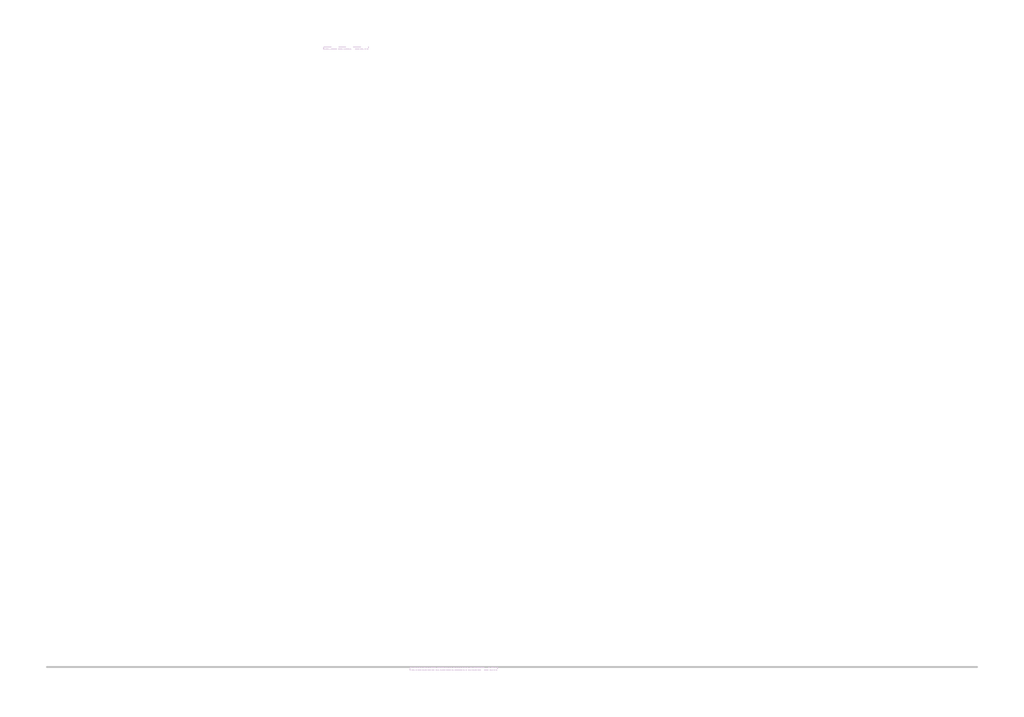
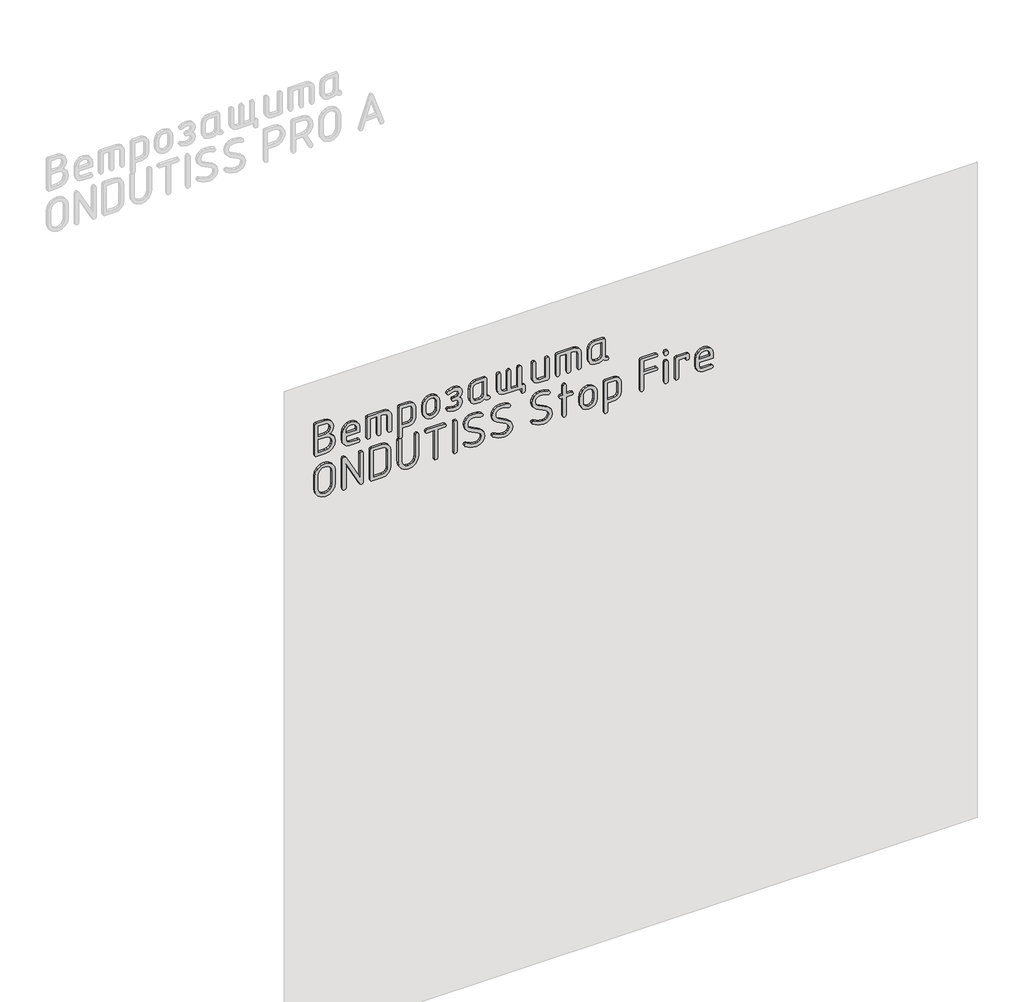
# One storey, part 20 of 42: 1 proxy.
"""IFC4 building model written with IfcOpenShell, lengths in millimetres."""

import ifcopenshell
import ifcopenshell.guid

model = None  # the IFC model being written
_history = None  # IfcOwnerHistory: only IFC2X3 demands one
_inside = {}  # id of a spatial element -> (the spatial element, [elements in it])
_under = {}  # id of a project, library or spatial element -> (it, [spatial elements below it])
_declared = {}  # id of a project -> (the project, [libraries it declares])
_typed = {}  # id of a type object -> (the type object, [elements of that type])
_made_of = {}  # id of a material, layer set ... -> (it, [elements and type objects made of it])


def new_model(schema):
    """Start an empty IFC model of exactly this schema.

    Asked for "IFC4X3", IfcOpenShell would pick the latest addendum, in which some entities
    have other attributes; the version numbers below select the first issue.
    IFC2X3 requires an IfcOwnerHistory on every rooted entity: one is made here for all.
    """
    global model, _history
    if schema == "IFC4X3":
        model = ifcopenshell.file(schema_version=(4, 3, 0, 0))
    else:
        model = ifcopenshell.file(schema=schema)
    _inside.clear()
    _under.clear()
    _declared.clear()
    _typed.clear()
    _made_of.clear()
    _history = None
    if model.schema == "IFC2X3":
        org = make("IfcOrganization", Name="unknown")
        user = make(
            "IfcPersonAndOrganization",
            ThePerson=make("IfcPerson", FamilyName="unknown"),
            TheOrganization=org,
        )
        app = make(
            "IfcApplication",
            ApplicationDeveloper=org,
            Version="unknown",
            ApplicationFullName="unknown",
            ApplicationIdentifier="unknown",
        )
        _history = make(
            "IfcOwnerHistory",
            OwningUser=user,
            OwningApplication=app,
            ChangeAction="ADDED",
            CreationDate=0,
        )
    return model


def make(cls, **values):
    """One entity of the class cls with the attributes given. An attribute that is None is left unset."""
    return model.create_entity(
        cls, **{name: value for name, value in values.items() if value is not None}
    )


def rooted(cls, **values):
    """An entity with a GlobalId (a new one), such as an element, a storey or a relation."""
    return make(cls, GlobalId=ifcopenshell.guid.new(), OwnerHistory=_history, **values)


def si_unit(unit_type, name, prefix=None):
    """IfcSIUnit, for example si_unit("LENGTHUNIT", "METRE", prefix="MILLI")."""
    return make("IfcSIUnit", UnitType=unit_type, Prefix=prefix, Name=name)


def assignment(units):
    """IfcUnitAssignment: the units of a project."""
    return None if units is None else make("IfcUnitAssignment", Units=units)


def point(xyz):
    """IfcCartesianPoint."""
    return None if xyz is None else make("IfcCartesianPoint", Coordinates=xyz)


def direction(xyz):
    """IfcDirection."""
    return None if xyz is None else make("IfcDirection", DirectionRatios=xyz)


def frame(location, z_axis=None, x_axis=None):
    """IfcAxis2Placement3D, a coordinate frame: its origin and axes. An axis left out is left unset."""
    return make(
        "IfcAxis2Placement3D",
        Location=point(location),
        Axis=direction(z_axis),
        RefDirection=direction(x_axis),
    )


def origin():
    """The frame at (0, 0, 0) with its axes left unset."""
    return frame((0.0, 0.0, 0.0))


def place(relative_to, where):
    """IfcLocalPlacement: puts the frame where relative to a parent placement (None: the world)."""
    return make(
        "IfcLocalPlacement", PlacementRelTo=relative_to, RelativePlacement=where
    )


def context(
    kind, dimensions, precision=None, world=None, true_north=None, identifier=None
):
    """IfcGeometricRepresentationContext, for example the 3D "Model" context."""
    return make(
        "IfcGeometricRepresentationContext",
        ContextIdentifier=identifier,
        ContextType=kind,
        CoordinateSpaceDimension=dimensions,
        Precision=precision,
        WorldCoordinateSystem=world,
        TrueNorth=true_north,
    )


def project(units=None, contexts=None):
    """IfcProject with its units and contexts."""
    return rooted(
        "IfcProject",
        Name="project",
        RepresentationContexts=contexts,
        UnitsInContext=assignment(units),
    )


def spatial(cls, under=None, at=None, **own):
    """A site, building, storey or space (cls), placed at a placement, below another one or the project."""
    s = rooted(cls, ObjectPlacement=at, **own)
    if under is not None:
        _under.setdefault(under.id(), (under, []))[1].append(s)
    return s


def polyline(points):
    """IfcPolyline through the points."""
    return make("IfcPolyline", Points=[point(p) for p in points])


def outline(outer, holes=None, kind="AREA"):
    """IfcArbitraryClosedProfileDef: a profile drawn as a closed curve; with holes, ...WithVoids."""
    if holes is None:
        return make("IfcArbitraryClosedProfileDef", ProfileType=kind, OuterCurve=outer)
    return make(
        "IfcArbitraryProfileDefWithVoids",
        ProfileType=kind,
        OuterCurve=outer,
        InnerCurves=holes,
    )


def extrude(swept, where, along, depth):
    """IfcExtrudedAreaSolid: the profile swept, set in the frame where, extruded along a direction by depth."""
    return make(
        "IfcExtrudedAreaSolid",
        SweptArea=swept,
        Position=where,
        ExtrudedDirection=direction(along),
        Depth=depth,
    )


def shape(context_of_items, identifier, shape_type, items):
    """IfcShapeRepresentation: the items that make up one representation, for example the "Body"."""
    return make(
        "IfcShapeRepresentation",
        ContextOfItems=context_of_items,
        RepresentationIdentifier=identifier,
        RepresentationType=shape_type,
        Items=items,
    )


def made_of(thing, what):
    """Note that an element or type object is made of a material, layer set ...; save() writes the relation."""
    if what is not None:
        _made_of.setdefault(what.id(), (what, []))[1].append(thing)
    return thing


def element(
    cls,
    number,
    at=None,
    inside=None,
    cuts=None,
    type_object=None,
    material=None,
    context=None,
    identifier="Body",
    shape_type=None,
    held_by="IfcProductDefinitionShape",
    body=None,
    shapes=None,
    **own,
):
    """One element of the class cls, such as IfcWall. Its Tag is "e" and its number.

    at: its placement. inside: the storey or other place that contains it. cuts: it is an
    opening in that element (IfcRelVoidsElement). A single representation is given by context,
    identifier, shape_type and body (its items); several are given by shapes. held_by: the class
    of the entity that holds the representations. save() writes the other relations.
    """
    e = rooted(cls, Tag="e%d" % number, ObjectPlacement=at, **own)
    if body is not None:
        shapes = [shape(context, identifier, shape_type, body)]
    if shapes is not None:
        e.Representation = make(held_by, Representations=shapes)
    if inside is not None:
        _inside.setdefault(inside.id(), (inside, []))[1].append(e)
    if cuts is not None:
        rooted(
            "IfcRelVoidsElement", RelatingBuildingElement=cuts, RelatedOpeningElement=e
        )
    if type_object is not None:
        _typed.setdefault(type_object.id(), (type_object, []))[1].append(e)
    return made_of(e, material)


def aggregate(whole, parts):
    """IfcRelAggregates: a whole, such as a stair, and the parts it consists of."""
    return rooted("IfcRelAggregates", RelatingObject=whole, RelatedObjects=parts)


def save(model, path):
    """Write the relations noted so far, then the file.

    IfcRelAggregates (storeys below a building ...), IfcRelContainedInSpatialStructure (elements
    in a storey), IfcRelDefinesByType, IfcRelAssociatesMaterial and IfcRelDeclares: one each for
    every whole, place, type object, material and project.
    """
    for whole, parts in _under.values():
        aggregate(whole, parts)
    for where, things in _inside.values():
        rooted(
            "IfcRelContainedInSpatialStructure",
            RelatedElements=things,
            RelatingStructure=where,
        )
    for kind, things in _typed.values():
        rooted("IfcRelDefinesByType", RelatedObjects=things, RelatingType=kind)
    for what, things in _made_of.values():
        rooted("IfcRelAssociatesMaterial", RelatedObjects=things, RelatingMaterial=what)
    for by, libraries in _declared.values():
        rooted("IfcRelDeclares", RelatingContext=by, RelatedDefinitions=libraries)
    model.write(path)


model = new_model("IFC4")

# Units and contexts
model_context = context("Model", 3, world=origin())
ifc_project = project(units=[si_unit("LENGTHUNIT", "METRE", prefix="MILLI")], contexts=[model_context])

# Site, building, storey
site = spatial("IfcSite", under=ifc_project)
building = spatial("IfcBuilding", under=site)
storey = spatial("IfcBuildingStorey", under=building, Name="Этаж 01", Elevation=0.0)

# Proxy
placement = place(None, origin())
element("IfcBuildingElementProxy", 1, Name="150 мм GOST Common", ObjectType="150 мм GOST Common", at=placement, inside=storey, context=model_context, shape_type="SweptSolid", body=[
    extrude(outline(polyline([(2745.2967896, -23242.9801231), (2758.5207699, -23232.3430091), (2775.180588, -23228.7973044), (2790.0625597, -23231.4890436), (2802.4275806, -23239.5642611), (2810.7574896, -23251.5547357), (2813.534126, -23265.9922459), (2813.534126, -23303.1871874), (2811.6464128, -23308.7604359), (2805.9832732, -23310.6181854), (2670.2277293, -23310.6181854), (2664.5645897, -23308.750448), (2662.6768765, -23303.1472358), (2662.6768765, -23265.8723911), (2665.9479139, -23248.6932022), (2675.7610262, -23234.2307223), (2690.1885485, -23224.4026281), (2707.302816, -23221.1265968), (2729.4859431, -23226.5899784), (2745.2967896, -23242.9801231)]), holes=[polyline([(2798.1927108, -23295.2767702), (2798.1927108, -23266.0721491), (2796.5097495, -23257.6373671), (2791.4608658, -23250.5509517), (2784.0248739, -23245.7417776), (2775.180588, -23244.1387196), (2766.3363021, -23245.7417776), (2758.9003101, -23250.5509517), (2753.8514264, -23257.6373671), (2752.1684652, -23266.0721491), (2752.1684652, -23295.2767702), (2798.1927108, -23295.2767702)]), polyline([(2736.82705, -23295.2767702), (2736.82705, -23265.8723911), (2734.6946332, -23254.4811906), (2728.2973829, -23244.997679), (2718.8138714, -23238.6004287), (2707.4226708, -23236.468012), (2696.0314703, -23238.6004287), (2686.5479588, -23244.997679), (2680.1507085, -23254.4811906), (2678.0182917, -23265.8723911), (2678.0182917, -23295.2767702), (2736.82705, -23295.2767702)])]), frame((0.0, -27839.3929597, 0.0), z_axis=(0.0, 1.0, 0.0), x_axis=(0.0, 0.0, 1.0)), (0.0, 0.0, 1.0), 10.0),
    extrude(outline(polyline([(2708.7011221, -23175.1023512), (2708.7011221, -23115.0950449), (2730.7544065, -23115.0950449), (2745.0371042, -23117.8067599), (2756.8827542, -23125.9419048), (2764.8530988, -23138.0322584), (2767.5098804, -23152.6095992), (2764.7731956, -23167.0770731), (2756.5631414, -23179.3172452), (2744.4677939, -23187.6621361), (2730.0752292, -23190.4437664), (2692.6405781, -23190.4437664), (2681.004674, -23188.2264525), (2671.3463742, -23181.5745107), (2664.8442509, -23171.7763803), (2662.6768765, -23160.1205004), (2662.6768765, -23122.6059461), (2664.5945534, -23116.9727702), (2670.3475841, -23115.0950449), (2676.1006148, -23116.9727702), (2678.0182917, -23122.6059461), (2678.0182917, -23160.1205004), (2682.5527986, -23170.6677234), (2693.3597069, -23175.1023512), (2708.7011221, -23175.1023512)]), holes=[polyline([(2754.0461905, -23152.6095992), (2752.3981869, -23143.9800532), (2747.4541761, -23136.7088616), (2740.1829845, -23131.7648508), (2731.5534385, -23130.1168472), (2724.0425373, -23130.1168472), (2724.0425373, -23175.1023512), (2731.5534385, -23175.1023512), (2740.1829845, -23173.4543476), (2747.4541761, -23168.5103368), (2752.3981869, -23161.2391453), (2754.0461905, -23152.6095992)])]), frame((0.0, -27839.3929597, 0.0), z_axis=(0.0, 1.0, 0.0), x_axis=(0.0, 0.0, 1.0)), (0.0, 0.0, 1.0), 10.0),
    extrude(outline(polyline([(2767.5098804, -23077.9400549), (2765.642143, -23083.6930856), (2760.0389308, -23085.6107625), (2670.1478261, -23085.6107625), (2664.5446139, -23083.6930856), (2662.6768765, -23077.9400549), (2664.5446139, -23072.1870242), (2670.1478261, -23070.2693473), (2752.1684652, -23070.2693473), (2752.1684652, -23039.5865169), (2670.1478261, -23039.5865169), (2664.5446139, -23037.66884), (2662.6768765, -23031.9158093), (2664.5446139, -23026.1627786), (2670.1478261, -23024.2451017), (2752.1684652, -23024.2451017), (2752.1684652, -23008.9036865), (2747.8736679, -22997.9769234), (2737.2665176, -22993.5622713), (2670.1478261, -22993.5622713), (2664.5446139, -22991.6445944), (2662.6768765, -22985.8915637), (2664.5446139, -22980.138533), (2670.1478261, -22978.2208561), (2737.5461788, -22978.2208561), (2749.1071737, -22980.4581459), (2758.7804553, -22987.170015), (2765.3275241, -22997.0780123), (2767.5098804, -23008.9036865), (2767.5098804, -23077.9400549)])), frame((0.0, -27839.3929597, 0.0), z_axis=(0.0, 1.0, 0.0), x_axis=(0.0, 0.0, 1.0)), (0.0, 0.0, 1.0), 10.0),
    extrude(outline(polyline([(2759.9590276, -22947.5380258), (2624.2034837, -22947.5380258), (2618.5403441, -22945.6203489), (2616.6526309, -22939.8673182), (2618.5703078, -22934.1142875), (2624.3233385, -22932.1966106), (2662.6768765, -22932.1966106), (2662.6768765, -22902.7922314), (2664.8592328, -22891.4010309), (2671.4063016, -22881.9175193), (2681.0795832, -22875.5202691), (2692.6405781, -22873.3878523), (2737.5461788, -22873.3878523), (2749.1820829, -22875.5352509), (2758.8403827, -22881.9774467), (2765.342506, -22891.5358675), (2767.5098804, -22903.031941), (2767.5098804, -22940.1070278), (2765.6221672, -22945.6802763), (2759.9590276, -22947.5380258)]), holes=[polyline([(2752.1684652, -22932.1966106), (2752.1684652, -22903.2316991), (2747.8936437, -22892.9042099), (2737.3464208, -22888.7292675), (2692.8403361, -22888.7292675), (2682.3530405, -22892.9641373), (2678.0182917, -22903.2316991), (2678.0182917, -22932.1966106), (2752.1684652, -22932.1966106)])]), frame((0.0, -27839.3929597, 0.0), z_axis=(0.0, 1.0, 0.0), x_axis=(0.0, 0.0, 1.0)), (0.0, 0.0, 1.0), 10.0),
    extrude(outline(polyline([(2700.1115277, -22842.7050219), (2685.718963, -22839.9933069), (2673.6236155, -22831.8581619), (2665.4135613, -22819.8776753), (2662.6768765, -22805.6299352), (2665.4135613, -22791.3821951), (2673.6236155, -22779.4017084), (2685.718963, -22771.2665634), (2700.1115277, -22768.5548485), (2730.0752292, -22768.5548485), (2744.6176124, -22771.2365997), (2756.6829962, -22779.2818536), (2764.8031593, -22791.2323766), (2767.5098804, -22805.6299352), (2764.7731956, -22819.8776753), (2756.5631414, -22831.8581619), (2744.4677939, -22839.9933069), (2730.0752292, -22842.7050219), (2700.1115277, -22842.7050219)]), holes=[polyline([(2700.5509953, -22783.8962636), (2691.8914855, -22785.4893338), (2684.6103061, -22790.2685442), (2679.6662953, -22797.2950322), (2678.0182917, -22805.6299352), (2679.6563074, -22814.0397474), (2684.5703545, -22821.0512536), (2691.841546, -22825.7855184), (2700.5509953, -22827.3636067), (2730.5546484, -22827.3636067), (2739.1841945, -22825.7705366), (2746.4553861, -22820.9913262), (2751.3993968, -22813.9648382), (2753.0474004, -22805.6299352), (2751.3993968, -22797.2950322), (2746.4553861, -22790.2685442), (2739.1841945, -22785.4893338), (2730.5546484, -22783.8962636), (2700.5509953, -22783.8962636)])]), frame((0.0, -27839.3929597, 0.0), z_axis=(0.0, 1.0, 0.0), x_axis=(0.0, 0.0, 1.0)), (0.0, 0.0, 1.0), 10.0),
    extrude(outline(polyline([(2693.3996585, -22686.7339674), (2682.5128469, -22691.1086678), (2678.0182917, -22701.7557698), (2678.0182917, -22709.266671), (2681.8336697, -22724.3084492), (2685.6490477, -22733.4373902), (2682.9323388, -22737.5524052), (2677.6587273, -22739.2703241), (2671.7059386, -22736.2240145), (2666.6320851, -22727.0850855), (2662.6768765, -22709.266671), (2662.6768765, -22701.7557698), (2664.8991844, -22690.0699262), (2671.566108, -22680.2618079), (2681.4591234, -22673.6098661), (2693.3597069, -22671.3925522), (2707.1829612, -22674.0393458), (2716.3718297, -22681.9797267), (2725.0113637, -22674.0393458), (2738.3052592, -22671.3925522), (2749.6215505, -22673.6098661), (2759.0401407, -22680.2618079), (2765.3924455, -22690.0699262), (2767.5098804, -22701.7557698), (2767.5098804, -22709.266671), (2763.434817, -22726.9652307), (2758.2710724, -22736.1940508), (2752.5280296, -22739.2703241), (2747.2743939, -22737.5524052), (2744.5377092, -22733.557245), (2748.3530872, -22724.6480378), (2752.1684652, -22709.266671), (2752.1684652, -22701.7557698), (2748.1133776, -22691.0687162), (2738.1055012, -22686.7339674), (2728.0976249, -22690.7690792), (2724.0425373, -22702.434947), (2724.0425373, -22704.8320431), (2724.0425373, -22707.1092845), (2721.7852718, -22714.5203066), (2716.3318781, -22716.7376206), (2710.8984602, -22714.580234), (2708.7011221, -22709.266671), (2708.7011221, -22699.5983833), (2704.7459135, -22690.7291276), (2693.3996585, -22686.7339674)])), frame((0.0, -27839.3929597, 0.0), z_axis=(0.0, 1.0, 0.0), x_axis=(0.0, 0.0, 1.0)), (0.0, 0.0, 1.0), 10.0),
    extrude(outline(polyline([(2670.1478261, -22551.5776976), (2675.781002, -22553.4504289), (2677.6587273, -22559.068623), (2679.5264647, -22564.686817), (2685.1296769, -22566.5595483), (2760.0389308, -22566.5595483), (2765.642143, -22568.4172978), (2767.5098804, -22573.9905463), (2767.5098804, -22611.0656331), (2765.342506, -22622.5617066), (2758.8403827, -22632.1201274), (2749.1820829, -22638.5623232), (2737.5461788, -22640.7097218), (2692.6405781, -22640.7097218), (2681.004674, -22638.5623232), (2671.3463742, -22632.1201274), (2664.8442509, -22622.5617066), (2662.6768765, -22611.0656331), (2662.6768765, -22596.2036371), (2664.6644687, -22585.2269344), (2670.6272453, -22576.1079812), (2664.6644687, -22568.5271648), (2662.6768765, -22559.0486472), (2664.5446139, -22553.445435), (2670.1478261, -22551.5776976)]), holes=[polyline([(2752.1684652, -22581.9009635), (2692.8403361, -22581.9009635), (2682.3530405, -22586.1358334), (2678.0182917, -22596.4033951), (2678.0182917, -22610.8658751), (2682.3929921, -22621.0934852), (2692.8403361, -22625.3683066), (2737.3464208, -22625.3683066), (2747.8337163, -22621.1334368), (2752.1684652, -22610.8658751), (2752.1684652, -22581.9009635)])]), frame((0.0, -27839.3929597, 0.0), z_axis=(0.0, 1.0, 0.0), x_axis=(0.0, 0.0, 1.0)), (0.0, 0.0, 1.0), 10.0),
    extrude(outline(polyline([(2662.6768765, -22415.7022989), (2647.3354613, -22415.7022989), (2641.5824306, -22413.784622), (2639.6647537, -22408.0315913), (2641.5824306, -22402.2785606), (2647.3354613, -22400.3608837), (2670.3475841, -22400.3608837), (2676.1006148, -22402.2785606), (2678.0182917, -22408.0315913), (2678.0182917, -22415.7022989), (2760.0389308, -22415.7022989), (2765.642143, -22417.6199758), (2767.5098804, -22423.3730065), (2765.642143, -22429.1260372), (2760.0389308, -22431.0437141), (2678.0182917, -22431.0437141), (2678.0182917, -22461.7265445), (2760.0389308, -22461.7265445), (2765.642143, -22463.6442214), (2767.5098804, -22469.3972521), (2765.642143, -22475.1502828), (2760.0389308, -22477.0679597), (2678.0182917, -22477.0679597), (2678.0182917, -22491.1309236), (2682.4329437, -22501.0389209), (2692.9202393, -22505.1938876), (2760.0389308, -22505.1938876), (2765.642143, -22507.1115645), (2767.5098804, -22512.8645952), (2765.642143, -22518.6176259), (2760.0389308, -22520.5353028), (2692.6405781, -22520.5353028), (2681.0795832, -22518.3679283), (2671.4063016, -22511.8658051), (2664.8592328, -22502.2075053), (2662.6768765, -22490.5716012), (2662.6768765, -22415.7022989)])), frame((0.0, -27839.3929597, 0.0), z_axis=(0.0, 1.0, 0.0), x_axis=(0.0, 0.0, 1.0)), (0.0, 0.0, 1.0), 10.0),
    extrude(outline(polyline([(2760.0389308, -22295.5278799), (2765.642143, -22297.4455568), (2767.5098804, -22303.1985875), (2765.642143, -22308.9516182), (2760.0389308, -22310.8692951), (2678.0182917, -22310.8692951), (2678.0182917, -22339.8342066), (2682.4329437, -22350.0618167), (2692.9202393, -22354.3366381), (2760.0389308, -22354.3366381), (2765.642143, -22356.254315), (2767.5098804, -22362.0073457), (2765.642143, -22367.7603764), (2760.0389308, -22369.6780533), (2692.6405781, -22369.6780533), (2681.004674, -22367.5306547), (2671.3463742, -22361.0884589), (2664.8442509, -22351.5300381), (2662.6768765, -22340.0339646), (2662.6768765, -22302.9588778), (2664.5446139, -22297.3856294), (2670.1478261, -22295.5278799), (2760.0389308, -22295.5278799)])), frame((0.0, -27839.3929597, 0.0), z_axis=(0.0, 1.0, 0.0), x_axis=(0.0, 0.0, 1.0)), (0.0, 0.0, 1.0), 10.0),
    extrude(outline(polyline([(2767.5098804, -22257.1743419), (2765.642143, -22262.9273726), (2760.0389308, -22264.8450495), (2670.1478261, -22264.8450495), (2664.5446139, -22262.9273726), (2662.6768765, -22257.1743419), (2664.5446139, -22251.4213112), (2670.1478261, -22249.5036343), (2752.1684652, -22249.5036343), (2752.1684652, -22218.8208039), (2670.1478261, -22218.8208039), (2664.5446139, -22216.903127), (2662.6768765, -22211.1500963), (2664.5446139, -22205.3970656), (2670.1478261, -22203.4793887), (2752.1684652, -22203.4793887), (2752.1684652, -22188.1379735), (2747.8736679, -22177.2112103), (2737.2665176, -22172.7965583), (2670.1478261, -22172.7965583), (2664.5446139, -22170.8788814), (2662.6768765, -22165.1258507), (2664.5446139, -22159.37282), (2670.1478261, -22157.4551431), (2737.5461788, -22157.4551431), (2749.1071737, -22159.6924328), (2758.7804553, -22166.4043019), (2765.3275241, -22176.3122993), (2767.5098804, -22188.1379735), (2767.5098804, -22257.1743419)])), frame((0.0, -27839.3929597, 0.0), z_axis=(0.0, 1.0, 0.0), x_axis=(0.0, 0.0, 1.0)), (0.0, 0.0, 1.0), 10.0),
    extrude(outline(polyline([(2670.1478261, -22037.6402885), (2675.781002, -22039.5130198), (2677.6587273, -22045.1312138), (2679.5264647, -22050.7494079), (2685.1296769, -22052.6221392), (2760.0389308, -22052.6221392), (2765.642143, -22054.4798887), (2767.5098804, -22060.0531372), (2767.5098804, -22097.1282239), (2765.342506, -22108.6242974), (2758.8403827, -22118.1827182), (2749.1820829, -22124.6249141), (2737.5461788, -22126.7723127), (2692.6405781, -22126.7723127), (2681.004674, -22124.6249141), (2671.3463742, -22118.1827182), (2664.8442509, -22108.6242974), (2662.6768765, -22097.1282239), (2662.6768765, -22082.266228), (2664.6644687, -22071.2895253), (2670.6272453, -22062.1705721), (2664.6644687, -22054.5897556), (2662.6768765, -22045.111238), (2664.5446139, -22039.5080259), (2670.1478261, -22037.6402885)]), holes=[polyline([(2752.1684652, -22067.9635544), (2692.8403361, -22067.9635544), (2682.3530405, -22072.1984243), (2678.0182917, -22082.465986), (2678.0182917, -22096.9284659), (2682.3929921, -22107.1560761), (2692.8403361, -22111.4308975), (2737.3464208, -22111.4308975), (2747.8337163, -22107.1960277), (2752.1684652, -22096.9284659), (2752.1684652, -22067.9635544)])]), frame((0.0, -27839.3929597, 0.0), z_axis=(0.0, 1.0, 0.0), x_axis=(0.0, 0.0, 1.0)), (0.0, 0.0, 1.0), 10.0),
    extrude(outline(polyline([(2511.9177961, -23221.1265968), (2572.2447152, -23221.1265968), (2589.6885835, -23224.3876463), (2604.3058759, -23234.1707949), (2614.2088792, -23248.618293), (2617.5098804, -23265.8723911), (2614.1938974, -23283.05158), (2604.2459485, -23297.5140599), (2589.6136742, -23307.3421541), (2572.2447152, -23310.6181854), (2511.9177961, -23310.6181854), (2494.5488371, -23307.3421541), (2479.9165628, -23297.5140599), (2469.9686139, -23283.05158), (2466.6526309, -23265.8723911), (2469.9686139, -23248.6932022), (2479.9165628, -23234.2307223), (2494.5488371, -23224.4026281), (2511.9177961, -23221.1265968)]), holes=[polyline([(2512.0376509, -23236.468012), (2500.3917589, -23238.6004287), (2490.7034954, -23244.997679), (2484.1714084, -23254.4811906), (2481.9940461, -23265.8723911), (2484.1714084, -23277.2635916), (2490.7034954, -23286.7471032), (2500.3917589, -23293.1443535), (2512.0376509, -23295.2767702), (2572.1248604, -23295.2767702), (2583.7707524, -23293.1443535), (2593.4590159, -23286.7471032), (2599.9911029, -23277.2635916), (2602.1684652, -23265.8723911), (2599.9911029, -23254.4811906), (2593.4590159, -23244.997679), (2583.7707524, -23238.6004287), (2572.1248604, -23236.468012), (2512.0376509, -23236.468012)])]), frame((0.0, -27839.3929597, 0.0), z_axis=(0.0, 1.0, 0.0), x_axis=(0.0, 0.0, 1.0)), (0.0, 0.0, 1.0), 10.0),
    extrude(outline(polyline([(2503.3282016, -23116.2935929), (2613.0353009, -23175.1023512), (2617.5098804, -23182.453446), (2615.6221672, -23188.4461863), (2609.9590276, -23190.4437664), (2474.2034837, -23190.4437664), (2468.5403441, -23188.5260895), (2466.6526309, -23182.7730588), (2468.5403441, -23177.0200281), (2474.2034837, -23175.1023512), (2580.9541645, -23175.1023512), (2470.4080815, -23116.2935929), (2466.6526309, -23109.1023046), (2468.5403441, -23102.9897094), (2474.2034837, -23100.9521777), (2609.9590276, -23100.9521777), (2615.6221672, -23102.8698546), (2617.5098804, -23108.6228853), (2615.6221672, -23114.375916), (2609.9590276, -23116.2935929), (2503.3282016, -23116.2935929)])), frame((0.0, -27839.3929597, 0.0), z_axis=(0.0, 1.0, 0.0), x_axis=(0.0, 0.0, 1.0)), (0.0, 0.0, 1.0), 10.0),
    extrude(outline(polyline([(2609.9590276, -23070.2693473), (2474.2034837, -23070.2693473), (2468.5403441, -23068.4016099), (2466.6526309, -23062.7983977), (2466.6526309, -23018.0526034), (2469.4092915, -23003.7299541), (2477.6792731, -22991.684546), (2489.8645117, -22983.5044555), (2504.3669433, -22980.7777587), (2579.795568, -22980.7777587), (2594.4478181, -22983.4744918), (2606.603093, -22991.5646912), (2614.7831835, -23003.5801356), (2617.5098804, -23018.0526034), (2617.5098804, -23062.7983977), (2615.6221672, -23068.4016099), (2609.9590276, -23070.2693473)]), holes=[polyline([(2602.1684652, -23054.9279321), (2602.1684652, -23018.1724582), (2600.5204616, -23009.6977246), (2595.5764508, -23002.5713576), (2588.2952713, -22997.7322198), (2579.6357616, -22996.1191739), (2504.5267497, -22996.1191739), (2495.8672399, -22997.7322198), (2488.5860605, -23002.5713576), (2483.6420497, -23009.6977246), (2481.9940461, -23018.1724582), (2481.9940461, -23054.9279321), (2602.1684652, -23054.9279321)])]), frame((0.0, -27839.3929597, 0.0), z_axis=(0.0, 1.0, 0.0), x_axis=(0.0, 0.0, 1.0)), (0.0, 0.0, 1.0), 10.0),
    extrude(outline(polyline([(2609.9590276, -22860.6033396), (2615.6221672, -22862.5210165), (2617.5098804, -22868.2740472), (2615.6321551, -22874.0270779), (2609.9989792, -22875.9447548), (2512.1175541, -22875.9447548), (2500.4367044, -22878.0771716), (2490.7234712, -22884.4744219), (2484.1764024, -22893.9579334), (2481.9940461, -22905.349134), (2484.1764024, -22916.7403345), (2490.7234712, -22926.223846), (2500.4367044, -22932.6210963), (2512.1175541, -22934.7535131), (2609.9989792, -22934.7535131), (2615.6321551, -22936.67119), (2617.5098804, -22942.4242207), (2615.6221672, -22948.1772514), (2609.9590276, -22950.0949283), (2511.9177961, -22950.0949283), (2494.5488371, -22946.8188969), (2479.9165628, -22936.9908028), (2469.9686139, -22922.5283229), (2466.6526309, -22905.349134), (2469.9686139, -22888.1699451), (2479.9165628, -22873.7074651), (2494.5488371, -22863.879371), (2511.9177961, -22860.6033396), (2609.9590276, -22860.6033396)])), frame((0.0, -27839.3929597, 0.0), z_axis=(0.0, 1.0, 0.0), x_axis=(0.0, 0.0, 1.0)), (0.0, 0.0, 1.0), 10.0),
    extrude(outline(polyline([(2609.8391728, -22831.6384281), (2604.0861421, -22829.7607028), (2602.1684652, -22824.1275269), (2602.1684652, -22794.1238738), (2474.1635321, -22794.1238738), (2468.5303562, -22792.2061969), (2466.6526309, -22786.4531662), (2468.5303562, -22780.7001355), (2474.1635321, -22778.7824586), (2602.1684652, -22778.7824586), (2602.1684652, -22748.7788054), (2604.0861421, -22743.1755932), (2609.8391728, -22741.3078558), (2615.5922035, -22743.1755932), (2617.5098804, -22748.7788054), (2617.5098804, -22824.1275269), (2615.5922035, -22829.7607028), (2609.8391728, -22831.6384281)])), frame((0.0, -27839.3929597, 0.0), z_axis=(0.0, 1.0, 0.0), x_axis=(0.0, 0.0, 1.0)), (0.0, 0.0, 1.0), 10.0),
    extrude(outline(polyline([(2466.6526309, -22702.0753826), (2468.5403441, -22696.3223519), (2474.2034837, -22694.404675), (2609.9590276, -22694.404675), (2615.6221672, -22696.3223519), (2617.5098804, -22702.0753826), (2615.6221672, -22707.8284133), (2609.9590276, -22709.7460902), (2474.2034837, -22709.7460902), (2468.5403441, -22707.8284133), (2466.6526309, -22702.0753826)])), frame((0.0, -27839.3929597, 0.0), z_axis=(0.0, 1.0, 0.0), x_axis=(0.0, 0.0, 1.0)), (0.0, 0.0, 1.0), 10.0),
    extrude(outline(polyline([(2504.2870401, -22574.2302559), (2524.1429863, -22579.3140973), (2537.8463858, -22594.5656214), (2559.5001542, -22636.2351424), (2567.6602689, -22645.3441076), (2579.59581, -22648.3804294), (2588.2603137, -22646.7673835), (2595.556475, -22641.9282457), (2600.5154676, -22634.8018786), (2602.1684652, -22626.3271451), (2600.4904979, -22609.567448), (2595.456596, -22592.6878961), (2594.657564, -22589.5716711), (2596.8748779, -22584.2780839), (2602.1684652, -22582.06077), (2609.1599955, -22586.4953978), (2615.4224092, -22603.4648408), (2617.5098804, -22626.6467579), (2614.7432319, -22640.8195887), (2606.4432866, -22652.8150572), (2594.2680359, -22660.9951478), (2579.8754712, -22663.7218446), (2560.0494887, -22658.6979306), (2546.4359803, -22643.6261888), (2524.7822119, -22601.9167162), (2516.5322061, -22592.6579324), (2504.5667013, -22589.5716711), (2495.9021976, -22591.1996989), (2488.6060363, -22596.0837823), (2483.6470437, -22603.2750707), (2481.9940461, -22611.8247135), (2485.1901743, -22631.6007565), (2495.657494, -22652.0559768), (2497.0158485, -22656.2908466), (2494.7985346, -22661.5245065), (2489.5049473, -22663.7218446), (2483.3923522, -22660.4458132), (2470.8375612, -22637.5235815), (2466.6526309, -22611.5051007), (2469.4192794, -22597.2573606), (2477.7192247, -22585.1969707), (2489.8944754, -22576.9719346), (2504.2870401, -22574.2302559)])), frame((0.0, -27839.3929597, 0.0), z_axis=(0.0, 1.0, 0.0), x_axis=(0.0, 0.0, 1.0)), (0.0, 0.0, 1.0), 10.0),
    extrude(outline(polyline([(2504.2870401, -22454.0558369), (2524.1429863, -22459.1396783), (2537.8463858, -22474.3912024), (2559.5001542, -22516.0607233), (2567.6602689, -22525.1696886), (2579.59581, -22528.2060104), (2588.2603137, -22526.5929644), (2595.556475, -22521.7538266), (2600.5154676, -22514.6274596), (2602.1684652, -22506.152726), (2600.4904979, -22489.3930289), (2595.456596, -22472.5134771), (2594.657564, -22469.3972521), (2596.8748779, -22464.1036648), (2602.1684652, -22461.8863509), (2609.1599955, -22466.3209787), (2615.4224092, -22483.2904217), (2617.5098804, -22506.4723388), (2614.7432319, -22520.6451697), (2606.4432866, -22532.6406382), (2594.2680359, -22540.8207287), (2579.8754712, -22543.5474256), (2560.0494887, -22538.5235116), (2546.4359803, -22523.4517697), (2524.7822119, -22481.7422971), (2516.5322061, -22472.4835134), (2504.5667013, -22469.3972521), (2495.9021976, -22471.0252799), (2488.6060363, -22475.9093632), (2483.6470437, -22483.1006516), (2481.9940461, -22491.6502945), (2485.1901743, -22511.4263375), (2495.657494, -22531.8815577), (2497.0158485, -22536.1164276), (2494.7985346, -22541.3500874), (2489.5049473, -22543.5474256), (2483.3923522, -22540.2713942), (2470.8375612, -22517.3491625), (2466.6526309, -22491.3306816), (2469.4192794, -22477.0829415), (2477.7192247, -22465.0225517), (2489.8944754, -22456.7975156), (2504.2870401, -22454.0558369)])), frame((0.0, -27839.3929597, 0.0), z_axis=(0.0, 1.0, 0.0), x_axis=(0.0, 0.0, 1.0)), (0.0, 0.0, 1.0), 10.0),
    extrude(outline(polyline([(2504.2870401, -22282.7433672), (2524.1429863, -22287.8272086), (2537.8463858, -22303.0787327), (2559.5001542, -22344.7482536), (2567.6602689, -22353.8572189), (2579.59581, -22356.8935406), (2588.2603137, -22355.2804947), (2595.556475, -22350.4413569), (2600.5154676, -22343.3149899), (2602.1684652, -22334.8402563), (2600.4904979, -22318.0805592), (2595.456596, -22301.2010074), (2594.657564, -22298.0847824), (2596.8748779, -22292.7911951), (2602.1684652, -22290.5738812), (2609.1599955, -22295.008509), (2615.4224092, -22311.977952), (2617.5098804, -22335.1598691), (2614.7432319, -22349.3327), (2606.4432866, -22361.3281685), (2594.2680359, -22369.508259), (2579.8754712, -22372.2349558), (2560.0494887, -22367.2110419), (2546.4359803, -22352.1393), (2524.7822119, -22310.4298274), (2516.5322061, -22301.1710437), (2504.5667013, -22298.0847824), (2495.9021976, -22299.7128102), (2488.6060363, -22304.5968935), (2483.6470437, -22311.7881819), (2481.9940461, -22320.3378247), (2485.1901743, -22340.1138678), (2495.657494, -22360.569088), (2497.0158485, -22364.8039579), (2494.7985346, -22370.0376177), (2489.5049473, -22372.2349558), (2483.3923522, -22368.9589245), (2470.8375612, -22346.0366928), (2466.6526309, -22320.0182119), (2469.4192794, -22305.7704718), (2477.7192247, -22293.710082), (2489.8944754, -22285.4850459), (2504.2870401, -22282.7433672)])), frame((0.0, -27839.3929597, 0.0), z_axis=(0.0, 1.0, 0.0), x_axis=(0.0, 0.0, 1.0)), (0.0, 0.0, 1.0), 10.0),
    extrude(outline(polyline([(2556.1442196, -22236.7191216), (2474.1235805, -22236.7191216), (2468.5203683, -22234.8014447), (2466.6526309, -22229.048414), (2468.5203683, -22223.2953833), (2474.1235805, -22221.3777064), (2556.1442196, -22221.3777064), (2556.1442196, -22198.8450028), (2558.0618965, -22193.2417906), (2563.8149272, -22191.3740532), (2569.5679579, -22193.2417906), (2571.4856348, -22198.8450028), (2571.4856348, -22221.3777064), (2609.8391728, -22221.3777064), (2615.5922035, -22223.2953833), (2617.5098804, -22229.048414), (2615.5922035, -22234.8014447), (2609.8391728, -22236.7191216), (2571.4856348, -22236.7191216), (2571.4856348, -22244.2300228), (2569.5679579, -22249.8631987), (2563.8149272, -22251.740924), (2558.0618965, -22249.8631987), (2556.1442196, -22244.2300228), (2556.1442196, -22236.7191216)])), frame((0.0, -27839.3929597, 0.0), z_axis=(0.0, 1.0, 0.0), x_axis=(0.0, 0.0, 1.0)), (0.0, 0.0, 1.0), 10.0),
    extrude(outline(polyline([(2504.0872821, -22162.5689481), (2489.6947174, -22159.8572332), (2477.5993699, -22151.7220882), (2469.3893157, -22139.7416015), (2466.6526309, -22125.4938614), (2469.3893157, -22111.2461213), (2477.5993699, -22099.2656347), (2489.6947174, -22091.1304897), (2504.0872821, -22088.4187747), (2534.0509836, -22088.4187747), (2548.5933668, -22091.100526), (2560.6587506, -22099.1457799), (2568.7789137, -22111.0963028), (2571.4856348, -22125.4938614), (2568.74895, -22139.7416015), (2560.5388958, -22151.7220882), (2548.4435483, -22159.8572332), (2534.0509836, -22162.5689481), (2504.0872821, -22162.5689481)]), holes=[polyline([(2504.5267497, -22103.7601899), (2495.8672399, -22105.35326), (2488.5860605, -22110.1324704), (2483.6420497, -22117.1589584), (2481.9940461, -22125.4938614), (2483.6320618, -22133.9036737), (2488.5461089, -22140.9151798), (2495.8173004, -22145.6494447), (2504.5267497, -22147.227533), (2534.5304029, -22147.227533), (2543.1599489, -22145.6344628), (2550.4311405, -22140.8552524), (2555.3751512, -22133.8287644), (2557.0231548, -22125.4938614), (2555.3751512, -22117.1589584), (2550.4311405, -22110.1324704), (2543.1599489, -22105.35326), (2534.5304029, -22103.7601899), (2504.5267497, -22103.7601899)])]), frame((0.0, -27839.3929597, 0.0), z_axis=(0.0, 1.0, 0.0), x_axis=(0.0, 0.0, 1.0)), (0.0, 0.0, 1.0), 10.0),
    extrude(outline(polyline([(2563.934782, -22057.7359443), (2428.1792381, -22057.7359443), (2422.5160985, -22055.8182674), (2420.6283853, -22050.0652367), (2422.5460622, -22044.312206), (2428.2990929, -22042.3945291), (2466.6526309, -22042.3945291), (2466.6526309, -22012.99015), (2468.8349872, -22001.5989494), (2475.382056, -21992.1154379), (2485.0553376, -21985.7181876), (2496.6163325, -21983.5857708), (2541.5219332, -21983.5857708), (2553.1578373, -21985.7331695), (2562.8161371, -21992.1753653), (2569.3182604, -22001.7337861), (2571.4856348, -22013.2298596), (2571.4856348, -22050.3049463), (2569.5979216, -22055.8781948), (2563.934782, -22057.7359443)]), holes=[polyline([(2556.1442196, -22042.3945291), (2556.1442196, -22013.4296176), (2551.8693982, -22003.1021285), (2541.3221752, -21998.927186), (2496.8160905, -21998.927186), (2486.3287949, -22003.1620559), (2481.9940461, -22013.4296176), (2481.9940461, -22042.3945291), (2556.1442196, -22042.3945291)])]), frame((0.0, -27839.3929597, 0.0), z_axis=(0.0, 1.0, 0.0), x_axis=(0.0, 0.0, 1.0)), (0.0, 0.0, 1.0), 10.0),
    extrude(outline(polyline([(2474.2034837, -21901.7648898), (2468.5403441, -21899.8472129), (2466.6526309, -21894.0941822), (2468.5103804, -21888.3411515), (2474.0836289, -21886.4234746), (2540.8028044, -21886.4234746), (2540.8028044, -21833.9270695), (2542.7204813, -21828.2938936), (2548.473512, -21826.4161683), (2554.2265427, -21828.2938936), (2556.1442196, -21833.9270695), (2556.1442196, -21886.4234746), (2602.1684652, -21886.4234746), (2602.1684652, -21833.9270695), (2604.0861421, -21828.2938936), (2609.8391728, -21826.4161683), (2615.5922035, -21828.2938936), (2617.5098804, -21833.9270695), (2617.5098804, -21894.0941822), (2615.6221672, -21899.8472129), (2609.9590276, -21901.7648898), (2474.2034837, -21901.7648898)])), frame((0.0, -27839.3929597, 0.0), z_axis=(0.0, 1.0, 0.0), x_axis=(0.0, 0.0, 1.0)), (0.0, 0.0, 1.0), 10.0),
    extrude(outline(polyline([(2564.1744916, -21796.9318859), (2474.1635321, -21796.9318859), (2468.5303562, -21795.014209), (2466.6526309, -21789.2611783), (2468.5303562, -21783.5081476), (2474.1635321, -21781.5904707), (2564.1744916, -21781.5904707), (2569.7777038, -21783.5081476), (2571.6454412, -21789.2611783), (2569.7777038, -21795.014209), (2564.1744916, -21796.9318859)])), frame((0.0, -27839.3929597, 0.0), z_axis=(0.0, 1.0, 0.0), x_axis=(0.0, 0.0, 1.0)), (0.0, 0.0, 1.0), 10.0),
    extrude(outline(polyline([(2602.488078, -21796.9318859), (2596.8549021, -21795.014209), (2594.9771768, -21789.2611783), (2596.8549021, -21783.5081476), (2602.488078, -21781.5904707), (2609.9989792, -21781.5904707), (2615.6321551, -21783.5081476), (2617.5098804, -21789.2611783), (2615.6321551, -21795.014209), (2609.9989792, -21796.9318859), (2602.488078, -21796.9318859)])), frame((0.0, -27839.3929597, 0.0), z_axis=(0.0, 1.0, 0.0), x_axis=(0.0, 0.0, 1.0)), (0.0, 0.0, 1.0), 10.0),
    extrude(outline(polyline([(2564.0146852, -21750.9076403), (2474.1235805, -21750.9076403), (2468.5203683, -21748.9899634), (2466.6526309, -21743.2369327), (2468.5203683, -21737.483902), (2474.1235805, -21735.5662252), (2556.1442196, -21735.5662252), (2556.1442196, -21705.562572), (2548.6333184, -21705.562572), (2543.0001425, -21703.6848467), (2541.1224172, -21698.0516708), (2543.0001425, -21692.4484586), (2548.6333184, -21690.5807212), (2563.8149272, -21690.5807212), (2569.5679579, -21692.4484586), (2571.4856348, -21698.0516708), (2571.4856348, -21743.2369327), (2569.6178974, -21748.9899634), (2564.0146852, -21750.9076403)])), frame((0.0, -27839.3929597, 0.0), z_axis=(0.0, 1.0, 0.0), x_axis=(0.0, 0.0, 1.0)), (0.0, 0.0, 1.0), 10.0),
    extrude(outline(polyline([(2512.6768765, -21646.0746365), (2512.6768765, -21586.0673302), (2534.7301609, -21586.0673302), (2549.0128586, -21588.7790452), (2560.8585086, -21596.9141901), (2568.8288532, -21609.0045437), (2571.4856348, -21623.5818845), (2568.74895, -21638.0493584), (2560.5388958, -21650.2895305), (2548.4435483, -21658.6344214), (2534.0509836, -21661.4160517), (2496.6163325, -21661.4160517), (2484.9804284, -21659.1987378), (2475.3221286, -21652.546796), (2468.8200053, -21642.7486656), (2466.6526309, -21631.0927857), (2466.6526309, -21593.5782314), (2468.5703078, -21587.9450555), (2474.3233385, -21586.0673302), (2480.0763692, -21587.9450555), (2481.9940461, -21593.5782314), (2481.9940461, -21631.0927857), (2486.528553, -21641.6400087), (2497.3354613, -21646.0746365), (2512.6768765, -21646.0746365)]), holes=[polyline([(2558.0219449, -21623.5818845), (2556.3739413, -21614.9523385), (2551.4299305, -21607.6811469), (2544.158739, -21602.7371361), (2535.5291929, -21601.0891326), (2528.0182917, -21601.0891326), (2528.0182917, -21646.0746365), (2535.5291929, -21646.0746365), (2544.158739, -21644.4266329), (2551.4299305, -21639.4826222), (2556.3739413, -21632.2114306), (2558.0219449, -21623.5818845)])]), frame((0.0, -27839.3929597, 0.0), z_axis=(0.0, 1.0, 0.0), x_axis=(0.0, 0.0, 1.0)), (0.0, 0.0, 1.0), 10.0),
])

save(model, "model.ifc")
